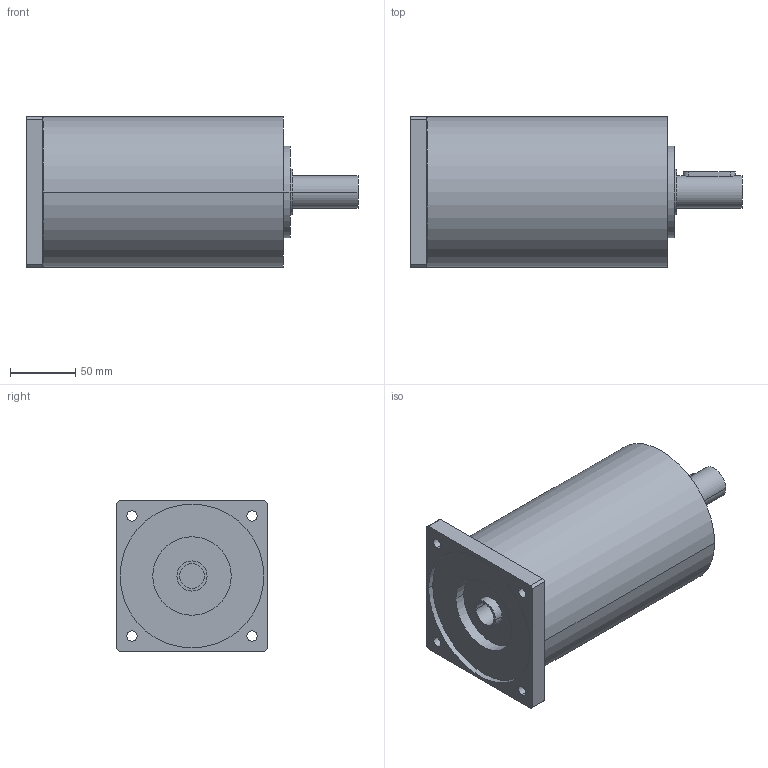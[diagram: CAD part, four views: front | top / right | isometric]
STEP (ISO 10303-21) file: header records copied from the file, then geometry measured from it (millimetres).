
FILE_DESCRIPTION(('CoCreate Modeling STEP Export'),'2;1');
FILE_NAME('GPR125_ig-48-64-80-100-140-196-245-343_25_B14_19_P13.stp','2014-08-26T14:21:52',(''),(''),'CoCreate Modeling STEP processor for AP214 (Solid Model)','CoCreate Modeling 16.00C 25-Feb-2009 (C) Parametric Technology GmbH','');
FILE_SCHEMA(('AUTOMOTIVE_DESIGN { 1 0 10303 214 1 1 1 1 }'));
Length unit declared in the file: millimetre
Products named in the file (2): GPR125_ig-48-64-80-100-140-196-245-343_25_B14_19_P13
Assembly tree (1 placements, depth 2):
  GPR125_ig-48-64-80-100-140-196-245-343_25_B14_19_P13
    GPR125_ig-48-64-80-100-140-196-245-343_25_B14_19_P13
Bounding box: 254 x 115 x 115 mm (x, y, z)
Volume: 2047529.9 mm3; surface area: 113967.8 mm2
Topology: 1 solids, 1 shells, 65 faces, 180 edges, 128 vertices
Faces by surface type: cylinder 40, plane 21, cone 4
Entity records: 1853 total; most frequent: ORIENTED_EDGE 356, CARTESIAN_POINT 351, DIRECTION 248, EDGE_CURVE 178, VERTEX_POINT 128, AXIS2_PLACEMENT_3D 93, EDGE_LOOP 86, FACE_OUTER_BOUND 65
